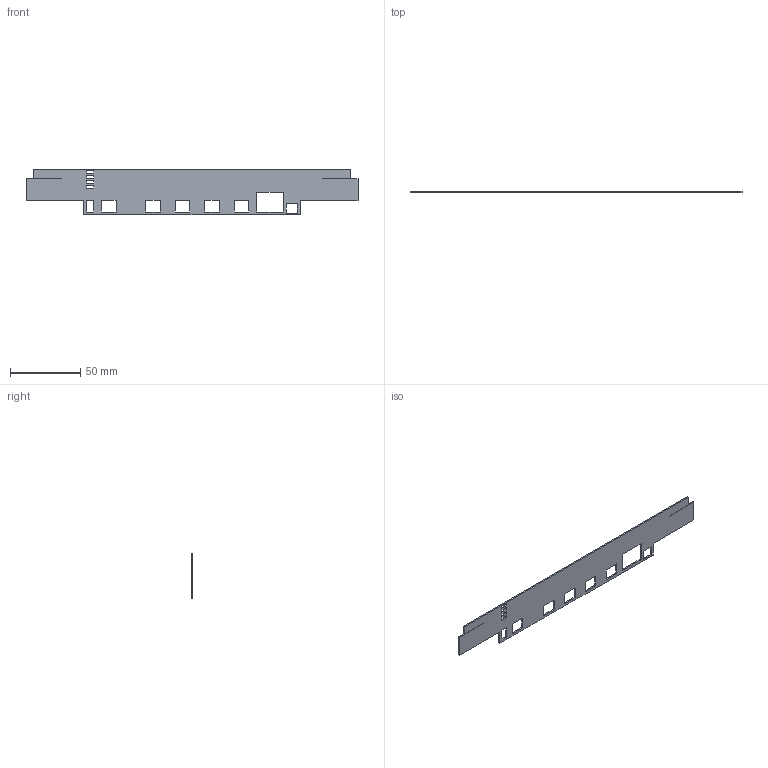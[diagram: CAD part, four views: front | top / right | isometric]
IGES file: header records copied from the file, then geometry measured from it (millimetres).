
Start section:  PTC IGES file: c:\works\pro\hrsivu1.igs
Global section: file name: c:\works\pro\hrsivu1.igs; native system: Pro/ENGINEER by Parametric Technology Corporation; preprocessor: 2001150; author: telimaa; organization: Unknown; date: 040905.143908; units: millimetre
Bounding box: 236.2 x 1 x 32.5 mm (x, y, z)
Surface area: 12841.9 mm2 (no closed solid volume)
Topology: 0 solids, 0 shells, 66 faces, 384 edges, 384 vertices
Faces by surface type: bspline 66
